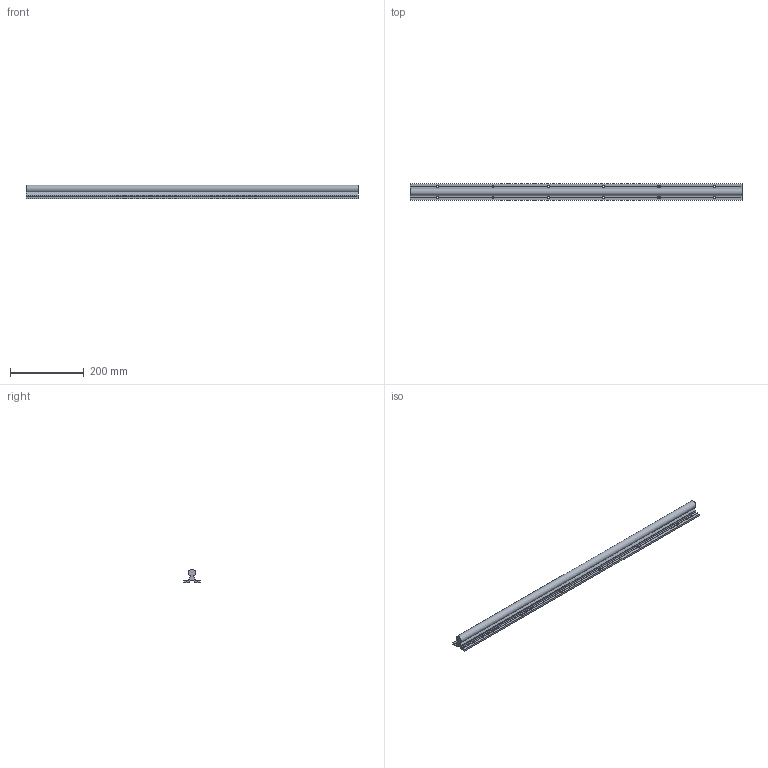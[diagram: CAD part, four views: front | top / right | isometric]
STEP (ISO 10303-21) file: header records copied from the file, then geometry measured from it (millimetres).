
FILE_DESCRIPTION(/* description */ (''),/* implementation_level */ '2;1');
FILE_NAME(/* name */ 'C:\Users\David\Desktop\stepFiles\Profilfuehrung\LFS20x900.stp',/* time_stamp */ '2018-06-24T15:21:57+02:00',/* author */ ('Buskamp'),/* organization */ (''),/* preprocessor_version */ 'ST-DEVELOPER v17',/* originating_system */ 'Autodesk Inventor 2019',/* authorisation */ '');
FILE_SCHEMA (('AUTOMOTIVE_DESIGN { 1 0 10303 214 3 1 1 }'));
Length unit declared in the file: millimetre
Products named in the file (1): Linearführung D20xvariabel
Bounding box: 900 x 45 x 37 mm (x, y, z)
Volume: 581493.4 mm3; surface area: 160190 mm2
Topology: 1 solids, 1 shells, 90 faces, 280 edges, 180 vertices
Faces by surface type: plane 61, cone 16, cylinder 13
Full cylindrical faces by diameter (mm): 5.5 x12
Entity records: 3181 total; most frequent: CARTESIAN_POINT 615, ORIENTED_EDGE 560, DIRECTION 532, EDGE_CURVE 280, AXIS2_PLACEMENT_3D 193, VERTEX_POINT 180, LINE 146, VECTOR 146
